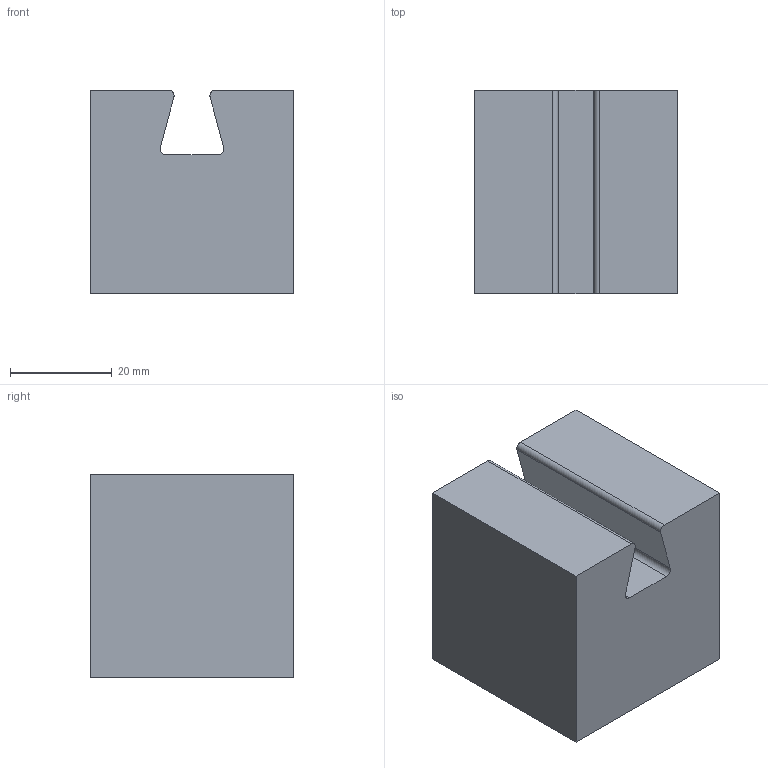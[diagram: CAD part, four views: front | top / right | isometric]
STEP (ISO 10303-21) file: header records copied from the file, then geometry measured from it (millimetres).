
FILE_DESCRIPTION (( 'STEP AP203' ), '1' );
FILE_NAME ('ALA25 Male Dovetail Subtraction.STEP', '2021-01-13T19:59:37', ( '' ), ( '' ), 'SwSTEP 2.0', 'SolidWorks 2020', '' );
FILE_SCHEMA (( 'CONFIG_CONTROL_DESIGN' ));
Length unit declared in the file: inch
Products named in the file (1): ALA25 Male Dovetail Subtraction
Bounding box: 40 x 40 x 40 mm (x, y, z)
Volume: 59030.5 mm3; surface area: 10569.5 mm2
Topology: 1 solids, 1 shells, 155 faces, 405 edges, 270 vertices
Faces by surface type: plane 122, bspline 29, cylinder 4
Entity records: 6566 total; most frequent: CARTESIAN_POINT 2854, ORIENTED_EDGE 810, DIRECTION 609, EDGE_CURVE 405, VECTOR 339, LINE 339, VERTEX_POINT 270, EDGE_LOOP 173
